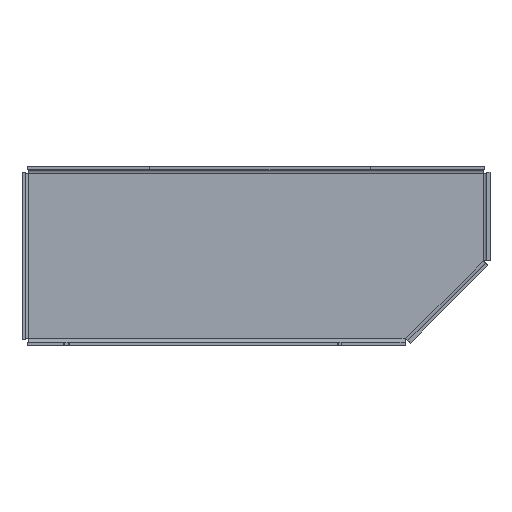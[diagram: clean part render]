
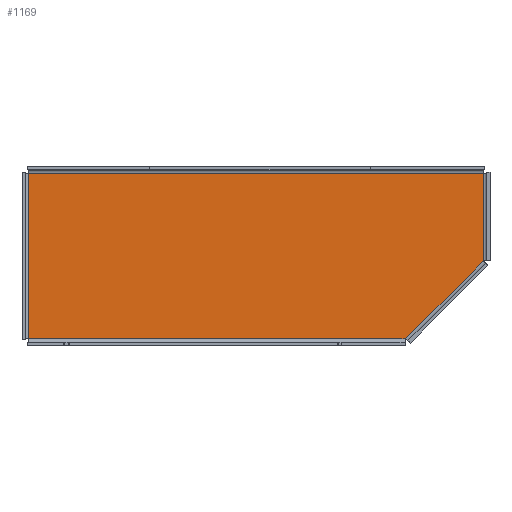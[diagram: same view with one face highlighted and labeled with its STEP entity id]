
A CAD part, front view. The second image highlights one B-rep face of the part: STEP entity #1169.
In plain terms, the highlighted planar face has unit normal (0, -1, 0).
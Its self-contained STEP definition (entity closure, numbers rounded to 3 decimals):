
#113=FACE_OUTER_BOUND('',#182,.T.);
#182=EDGE_LOOP('',(#1033,#1034,#1035,#1036,#1037,#1038,#1039,#1040,#1041));
#253=LINE('',#1746,#394);
#267=LINE('',#1781,#408);
#279=LINE('',#1812,#420);
#297=LINE('',#1856,#438);
#313=LINE('',#1897,#454);
#316=LINE('',#1904,#457);
#319=LINE('',#1910,#460);
#322=LINE('',#1915,#463);
#323=LINE('',#1917,#464);
#394=VECTOR('',#1403,10.);
#408=VECTOR('',#1443,10.);
#420=VECTOR('',#1481,10.);
#438=VECTOR('',#1527,10.);
#454=VECTOR('',#1569,10.);
#457=VECTOR('',#1576,10.);
#460=VECTOR('',#1581,10.);
#463=VECTOR('',#1588,10.);
#464=VECTOR('',#1591,10.);
#513=VERTEX_POINT('',#1727);
#514=VERTEX_POINT('',#1731);
#523=VERTEX_POINT('',#1768);
#529=VERTEX_POINT('',#1801);
#539=VERTEX_POINT('',#1835);
#552=VERTEX_POINT('',#1883);
#553=VERTEX_POINT('',#1887);
#556=VERTEX_POINT('',#1902);
#558=VERTEX_POINT('',#1908);
#633=EDGE_CURVE('',#514,#513,#253,.T.);
#651=EDGE_CURVE('',#513,#523,#267,.T.);
#667=EDGE_CURVE('',#529,#514,#279,.T.);
#689=EDGE_CURVE('',#539,#529,#297,.T.);
#709=EDGE_CURVE('',#552,#553,#313,.T.);
#712=EDGE_CURVE('',#523,#556,#316,.T.);
#715=EDGE_CURVE('',#553,#558,#319,.T.);
#718=EDGE_CURVE('',#558,#539,#322,.T.);
#719=EDGE_CURVE('',#556,#552,#323,.T.);
#1033=ORIENTED_EDGE('',*,*,#633,.T.);
#1034=ORIENTED_EDGE('',*,*,#651,.T.);
#1035=ORIENTED_EDGE('',*,*,#712,.T.);
#1036=ORIENTED_EDGE('',*,*,#719,.T.);
#1037=ORIENTED_EDGE('',*,*,#709,.T.);
#1038=ORIENTED_EDGE('',*,*,#715,.T.);
#1039=ORIENTED_EDGE('',*,*,#718,.T.);
#1040=ORIENTED_EDGE('',*,*,#689,.T.);
#1041=ORIENTED_EDGE('',*,*,#667,.T.);
#1100=PLANE('',#1272);
#1169=ADVANCED_FACE('',(#113),#1100,.T.);
#1272=AXIS2_PLACEMENT_3D('',#1918,#1592,#1593);
#1403=DIRECTION('',(0.,0.,-1.));
#1443=DIRECTION('',(1.,0.,0.));
#1481=DIRECTION('',(-1.,0.,0.));
#1527=DIRECTION('',(0.,0.,1.));
#1569=DIRECTION('',(0.707,0.,0.707));
#1576=DIRECTION('',(1.,0.,0.));
#1581=DIRECTION('',(0.707,0.,0.707));
#1588=DIRECTION('',(0.,0.,1.));
#1591=DIRECTION('',(0.707,0.,0.707));
#1592=DIRECTION('center_axis',(0.,-1.,0.));
#1593=DIRECTION('ref_axis',(0.,0.,-1.));
#1727=CARTESIAN_POINT('',(0.6,3.8,-21.65));
#1731=CARTESIAN_POINT('',(0.6,3.8,-0.6));
#1746=CARTESIAN_POINT('',(0.6,3.8,-5.863));
#1768=CARTESIAN_POINT('',(48.406,3.8,-21.65));
#1781=CARTESIAN_POINT('',(15.048,3.8,-21.65));
#1801=CARTESIAN_POINT('',(58.392,3.8,-0.6));
#1812=CARTESIAN_POINT('',(43.944,3.8,-0.6));
#1835=CARTESIAN_POINT('',(58.392,3.8,-11.664));
#1856=CARTESIAN_POINT('',(58.392,3.8,-11.42));
#1883=CARTESIAN_POINT('',(48.492,3.8,-21.614));
#1887=CARTESIAN_POINT('',(58.356,3.8,-11.75));
#1897=CARTESIAN_POINT('',(46.348,3.8,-23.759));
#1902=CARTESIAN_POINT('',(48.456,3.8,-21.65));
#1904=CARTESIAN_POINT('',(15.048,3.8,-21.65));
#1908=CARTESIAN_POINT('',(58.392,3.8,-11.714));
#1910=CARTESIAN_POINT('',(46.348,3.8,-23.759));
#1915=CARTESIAN_POINT('',(58.392,3.8,-11.42));
#1917=CARTESIAN_POINT('',(46.348,3.8,-23.759));
#1918=CARTESIAN_POINT('Origin',(29.496,3.8,-11.125));
